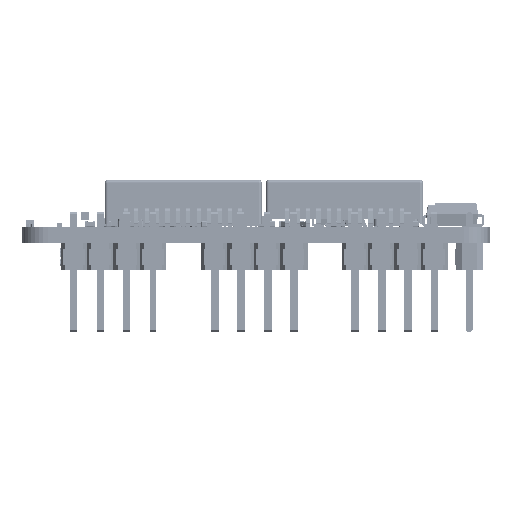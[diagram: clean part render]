
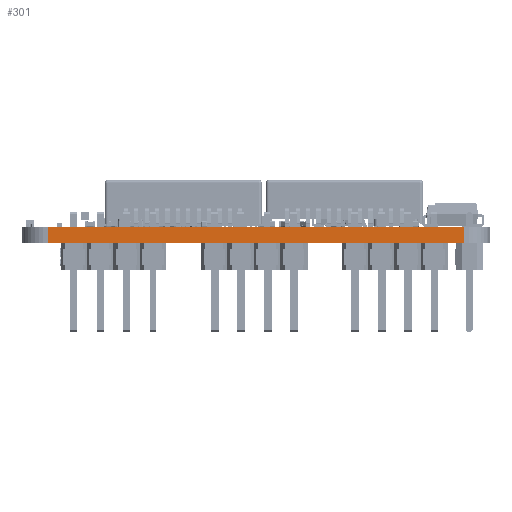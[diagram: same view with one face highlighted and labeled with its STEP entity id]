
A CAD part, left-side view. The second image highlights one B-rep face of the part: STEP entity #301.
In plain terms, the highlighted planar face has unit normal (-1, 0, 0).
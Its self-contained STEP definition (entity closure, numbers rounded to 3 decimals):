
#71 = EDGE_CURVE('',#72,#74,#76,.T.);
#72 = VERTEX_POINT('',#73);
#73 = CARTESIAN_POINT('',(0.013,42.5,0.));
#74 = VERTEX_POINT('',#75);
#75 = CARTESIAN_POINT('',(0.013,42.5,    1.6));
#76 = LINE('',#77,#78);
#77 = CARTESIAN_POINT('',(0.013,42.5,0.));
#78 = VECTOR('',#79,1.);
#79 = DIRECTION('',(0.,0.,1.));
#274 = VERTEX_POINT('',#275);
#275 = CARTESIAN_POINT('',(0.013,2.5,    1.6));
#282 = EDGE_CURVE('',#283,#274,#285,.T.);
#283 = VERTEX_POINT('',#284);
#284 = CARTESIAN_POINT('',(0.013,2.5,0.));
#285 = LINE('',#286,#287);
#286 = CARTESIAN_POINT('',(0.013,2.5,0.));
#287 = VECTOR('',#288,1.);
#288 = DIRECTION('',(0.,0.,1.));
#301 = ADVANCED_FACE('',(#302),#318,.T.);
#302 = FACE_BOUND('',#303,.T.);
#303 = EDGE_LOOP('',(#304,#305,#311,#312));
#304 = ORIENTED_EDGE('',*,*,#282,.T.);
#305 = ORIENTED_EDGE('',*,*,#306,.T.);
#306 = EDGE_CURVE('',#274,#74,#307,.T.);
#307 = LINE('',#308,#309);
#308 = CARTESIAN_POINT('',(0.013,2.5,    1.6));
#309 = VECTOR('',#310,1.);
#310 = DIRECTION('',(0.,1.,0.));
#311 = ORIENTED_EDGE('',*,*,#71,.F.);
#312 = ORIENTED_EDGE('',*,*,#313,.F.);
#313 = EDGE_CURVE('',#283,#72,#314,.T.);
#314 = LINE('',#315,#316);
#315 = CARTESIAN_POINT('',(0.013,2.5,0.));
#316 = VECTOR('',#317,1.);
#317 = DIRECTION('',(0.,1.,0.));
#318 = PLANE('',#319);
#319 = AXIS2_PLACEMENT_3D('',#320,#321,#322);
#320 = CARTESIAN_POINT('',(0.013,2.5,0.));
#321 = DIRECTION('',(-1.,0.,0.));
#322 = DIRECTION('',(0.,1.,0.));
